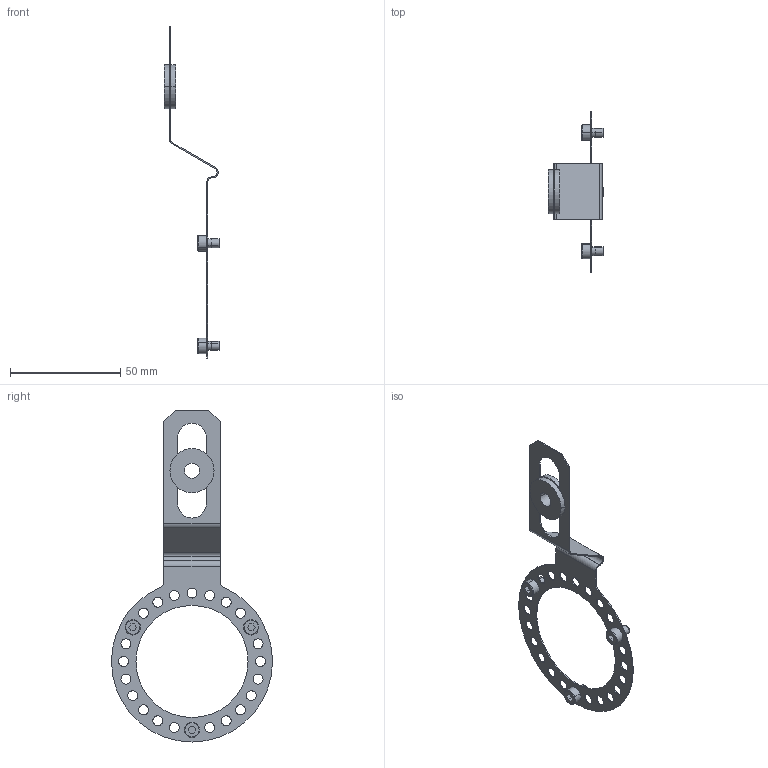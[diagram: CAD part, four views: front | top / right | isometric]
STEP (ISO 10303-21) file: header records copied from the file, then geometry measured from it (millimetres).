
FILE_DESCRIPTION(('STEP AP214'),'1');
FILE_NAME('Z:/PJ-RD/HS35/HS35 3D-Daten/Aktuelle Daten/temp/Tether T3.step','2011-06-22T10:56:43',(' '),(' '),'Spatial InterOp 3D',' ',' ');
FILE_SCHEMA(('automotive_design'));
Length unit declared in the file: millimetre
Products named in the file (8): Tether T3; Tether T3_1; Tether T3_2; Tether T3_3; Tether T3_4; Tether T3_5; Tether T3_6; 3D-Arbeitsebene
Assembly tree (7 placements, depth 3):
  3D-Arbeitsebene
    Tether T3
      Tether T3_1
      Tether T3_2
      Tether T3_3
      Tether T3_4
      Tether T3_5
      Tether T3_6
Bounding box: 25.3 x 73 x 150.5 mm (x, y, z)
Volume: 3767.4 mm3; surface area: 9967.4 mm2
Topology: 6 solids, 6 shells, 167 faces, 414 edges, 272 vertices
Faces by surface type: cylinder 99, plane 56, cone 6, torus 6
Entity records: 6721 total; most frequent: DIRECTION 982, CARTESIAN_POINT 862, ORIENTED_EDGE 828, EDGE_CURVE 414, AXIS2_PLACEMENT_3D 392, VERTEX_POINT 272, EDGE_LOOP 236, CIRCLE 216
